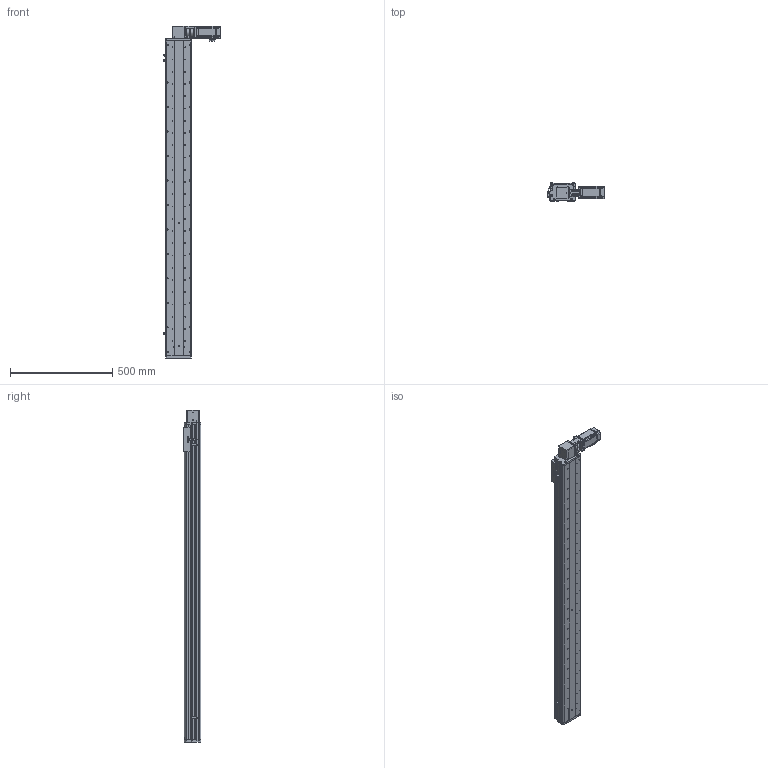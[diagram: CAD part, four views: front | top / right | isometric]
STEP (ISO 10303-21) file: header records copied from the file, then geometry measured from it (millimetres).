
FILE_DESCRIPTION (( 'STEP AP214' ), '1' );
FILE_NAME ('KSD125B-S1350-MRT-CM.STEP', '2017-10-21T07:10:48', ( '微软用户' ), ( '微软中国' ), 'SwSTEP 2.0', 'SolidWorks 2014', '' );
FILE_SCHEMA (( 'AUTOMOTIVE_DESIGN' ));
Length unit declared in the file: millimetre
Products named in the file (16): KSD125模组同步带-滑动座1; KSD125B-S1350-MRT-CM; 100宽马达安装板同步带左; KSD125模组1350行程同步带-防尘盖; 125模组1350行程同步带-底板; MHMD042G1CA_2_03; KSD125模组同步带-防撞垫2; CS-34X32-10X14; 100遵鎮湛假蚾啣1 ; 覜茼え68遵圉猾敕; U倰嫖萇假蚾璃; U倰嫖萇EEㄜSX672; KSD125模组同步带-防撞垫1; 100宽安装板同步带带电机座400W,86; 前端板-125宽模组同步带; 125模组同步带-尾端板1
Assembly tree (19 placements, depth 2):
  KSD125B-S1350-MRT-CM
    KSD125模组同步带-滑动座1
    125模组同步带-尾端板1
    前端板-125宽模组同步带
    100宽安装板同步带带电机座400W,86
    KSD125模组同步带-防撞垫1
    U倰嫖萇EEㄜSX672  x3
    U倰嫖萇假蚾璃  x3
    覜茼え68遵圉猾敕
    100遵鎮湛假蚾啣1 
    CS-34X32-10X14
    KSD125模组同步带-防撞垫2
    MHMD042G1CA_2_03
    125模组1350行程同步带-底板
    KSD125模组1350行程同步带-防尘盖
    100宽马达安装板同步带左
Bounding box: 282.7 x 86 x 1627 mm (x, y, z)
Volume: 4843725.4 mm3; surface area: 1582211.2 mm2
Topology: 18 solids, 21 shells, 1768 faces, 5080 edges, 3352 vertices
Faces by surface type: cylinder 953, plane 712, cone 81, bspline 22
Entity records: 62676 total; most frequent: CARTESIAN_POINT 12614, DIRECTION 9191, ORIENTED_EDGE 8680, EDGE_CURVE 4418, AXIS2_PLACEMENT_3D 3441, VERTEX_POINT 2944, VECTOR 2309, LINE 2309
